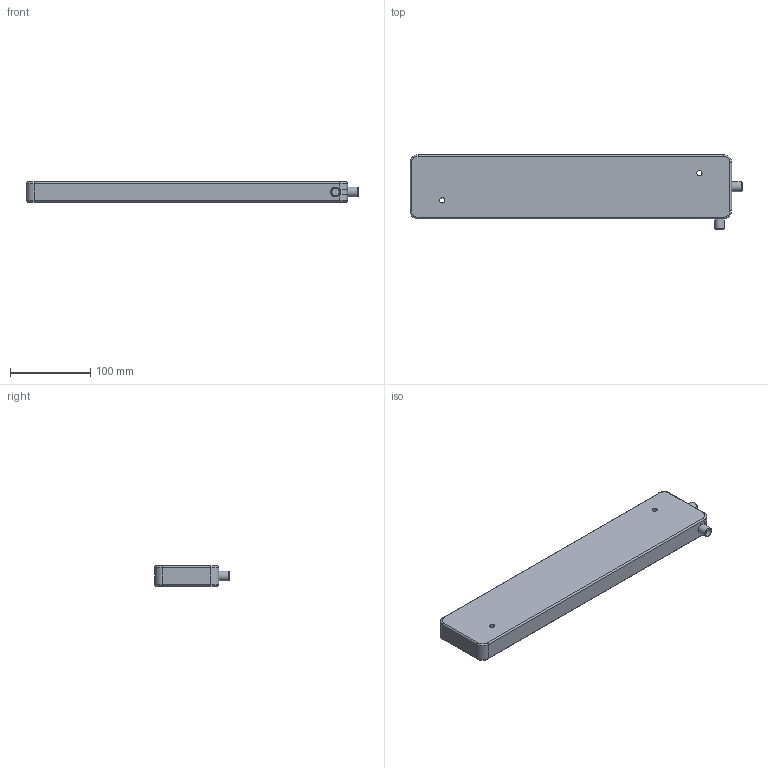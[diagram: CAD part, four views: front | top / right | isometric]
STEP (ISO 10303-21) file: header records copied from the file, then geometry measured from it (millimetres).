
FILE_DESCRIPTION (( 'STEP AP203' ), '1' );
FILE_NAME ('Q80L400.step', '2019-11-18T17:24:14', ( '' ), ( '' ), 'SwSTEP 2.0', 'SolidWorks 2017', '' );
FILE_SCHEMA (( 'CONFIG_CONTROL_DESIGN' ));
Length unit declared in the file: millimetre
Products named in the file (1): Q80L400
Bounding box: 413 x 93 x 25 mm (x, y, z)
Volume: 795486.2 mm3; surface area: 88407.4 mm2
Topology: 1 solids, 1 shells, 40 faces, 86 edges, 51 vertices
Faces by surface type: cylinder 19, plane 10, torus 8, cone 2, bspline 1
Full cylindrical faces by diameter (mm): 6.5 x2, 9.9 x2, 12 x2
Entity records: 1157 total; most frequent: CARTESIAN_POINT 215, DIRECTION 204, ORIENTED_EDGE 152, AXIS2_PLACEMENT_3D 89, EDGE_CURVE 76, EDGE_LOOP 55, VERTEX_POINT 49, CIRCLE 49
